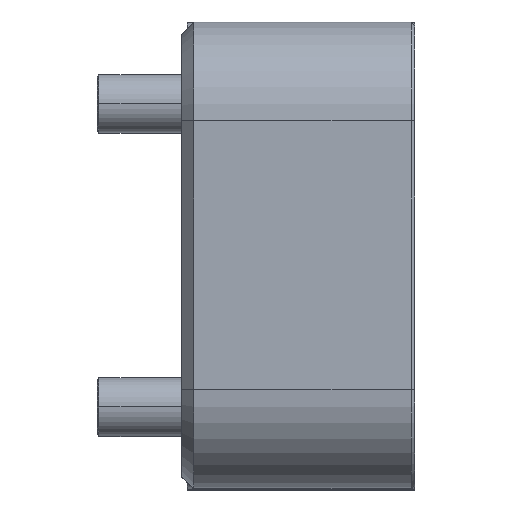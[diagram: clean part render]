
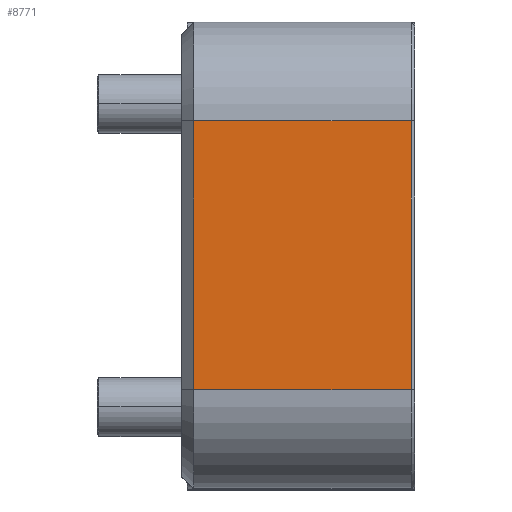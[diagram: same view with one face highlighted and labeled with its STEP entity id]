
A CAD part, top view. The second image highlights one B-rep face of the part: STEP entity #8771.
In plain terms, the highlighted planar face has unit normal (0, 0, 1).
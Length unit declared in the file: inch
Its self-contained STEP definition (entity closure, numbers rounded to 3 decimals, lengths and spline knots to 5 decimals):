
#112 = CARTESIAN_POINT ( 'NONE',  ( -2.37, -1.44, 5.375 ) ) ;
#590 = ORIENTED_EDGE ( 'NONE', *, *, #3390, .T. ) ;
#761 = EDGE_CURVE ( 'NONE', #8216, #7999, #5754, .T. ) ;
#1863 = LINE ( 'NONE', #8044, #4281 ) ;
#2337 = EDGE_CURVE ( 'NONE', #6780, #5335, #1863, .T. ) ;
#2819 = FACE_OUTER_BOUND ( 'NONE', #6178, .T. ) ;
#2923 = ORIENTED_EDGE ( 'NONE', *, *, #4411, .T. ) ;
#3068 = PLANE ( 'NONE',  #6354 ) ;
#3180 = CARTESIAN_POINT ( 'NONE',  ( -0.04, -1.44, 5.375 ) ) ;
#3390 = EDGE_CURVE ( 'NONE', #7999, #6780, #8291, .T. ) ;
#3501 = CARTESIAN_POINT ( 'NONE',  ( -2.37, -1.44, 5.375 ) ) ;
#3588 = ORIENTED_EDGE ( 'NONE', *, *, #2337, .T. ) ;
#3775 = CARTESIAN_POINT ( 'NONE',  ( -0.04, 1.44, 5.375 ) ) ;
#3948 = CARTESIAN_POINT ( 'NONE',  ( -2.5, -1.44, 5.375 ) ) ;
#4281 = VECTOR ( 'NONE', #4923, 39.37008 ) ;
#4411 = EDGE_CURVE ( 'NONE', #5335, #8216, #8517, .T. ) ;
#4923 = DIRECTION ( 'NONE',  ( 0., 1., 0. ) ) ;
#5066 = DIRECTION ( 'NONE',  ( 0., -1., 0. ) ) ;
#5335 = VERTEX_POINT ( 'NONE', #3775 ) ;
#5744 = VECTOR ( 'NONE', #8593, 39.37008 ) ;
#5754 = LINE ( 'NONE', #3501, #8917 ) ;
#6072 = ORIENTED_EDGE ( 'NONE', *, *, #761, .T. ) ;
#6178 = EDGE_LOOP ( 'NONE', ( #2923, #6072, #590, #3588 ) ) ;
#6354 = AXIS2_PLACEMENT_3D ( 'NONE', #7043, #8529, #10019 ) ;
#6780 = VERTEX_POINT ( 'NONE', #3180 ) ;
#7043 = CARTESIAN_POINT ( 'NONE',  ( -2.5, -2.5, 5.375 ) ) ;
#7308 = VECTOR ( 'NONE', #8238, 39.37008 ) ;
#7999 = VERTEX_POINT ( 'NONE', #112 ) ;
#8044 = CARTESIAN_POINT ( 'NONE',  ( -0.04, -2.5, 5.375 ) ) ;
#8206 = CARTESIAN_POINT ( 'NONE',  ( -2.37, 1.44, 5.375 ) ) ;
#8216 = VERTEX_POINT ( 'NONE', #8206 ) ;
#8238 = DIRECTION ( 'NONE',  ( -1., 0., 0. ) ) ;
#8291 = LINE ( 'NONE', #3948, #5744 ) ;
#8517 = LINE ( 'NONE', #8997, #7308 ) ;
#8529 = DIRECTION ( 'NONE',  ( 0., 0., 1. ) ) ;
#8593 = DIRECTION ( 'NONE',  ( 1., 0., 0. ) ) ;
#8771 = ADVANCED_FACE ( 'NONE', ( #2819 ), #3068, .T. ) ;
#8917 = VECTOR ( 'NONE', #5066, 39.37008 ) ;
#8997 = CARTESIAN_POINT ( 'NONE',  ( -2.5, 1.44, 5.375 ) ) ;
#10019 = DIRECTION ( 'NONE',  ( 1., 0., 0. ) ) ;
